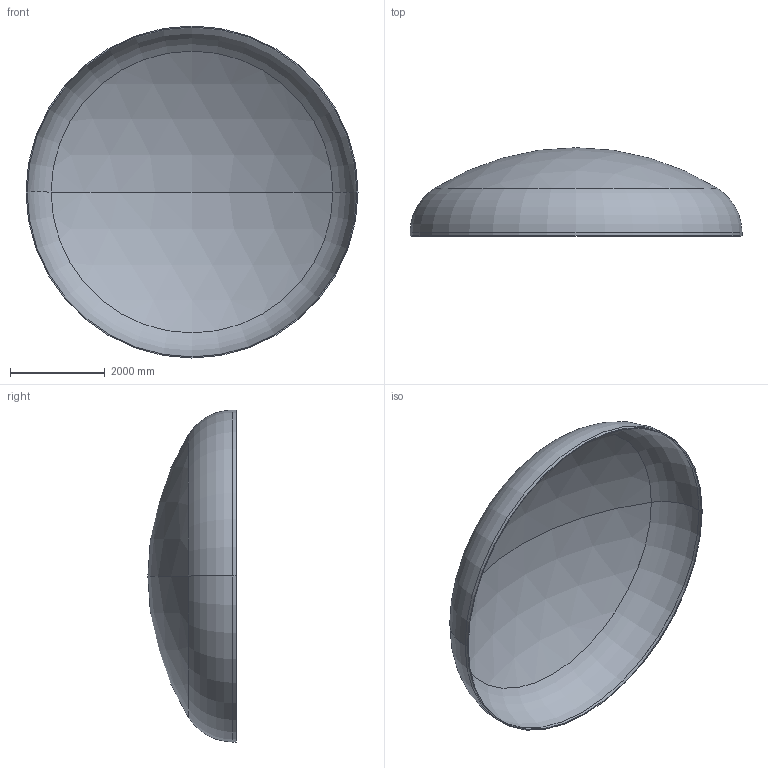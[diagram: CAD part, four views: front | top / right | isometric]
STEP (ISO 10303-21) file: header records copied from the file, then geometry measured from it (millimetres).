
FILE_DESCRIPTION (( 'STEP AP203' ), '1' );
FILE_NAME ('DIN 28013 Korbbogenform_-_Boden DIN 28013 - 7000 x 70 - I - s=22.step', '2016-07-04T10:45:54', ( '' ), ( '' ), 'SwSTEP 2.0', 'SolidWorks 2013', '' );
FILE_SCHEMA (( 'CONFIG_CONTROL_DESIGN' ));
Length unit declared in the file: millimetre
Products named in the file (1): DIN 28013 Korbbogenform_-_Boden DIN 28013 - 7000 x 70 - I - s=22
Bounding box: 7000 x 1860.55 x 7000 mm (x, y, z)
Volume: 1202008183 mm3; surface area: 109756725.3 mm2
Topology: 1 solids, 1 shells, 13 faces, 24 edges, 14 vertices
Faces by surface type: torus 4, cylinder 4, sphere 4, plane 1
Entity records: 407 total; most frequent: DIRECTION 72, CARTESIAN_POINT 52, ORIENTED_EDGE 48, AXIS2_PLACEMENT_3D 34, EDGE_CURVE 24, CIRCLE 20, VERTEX_POINT 14, EDGE_LOOP 14
